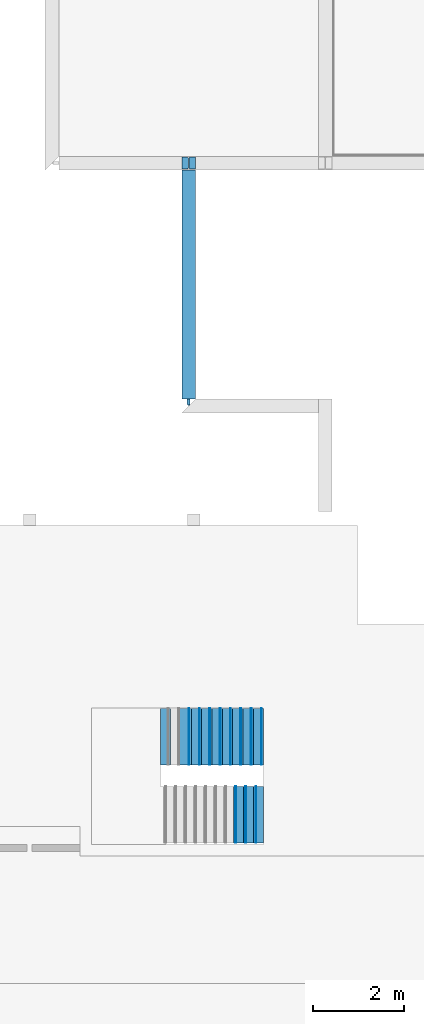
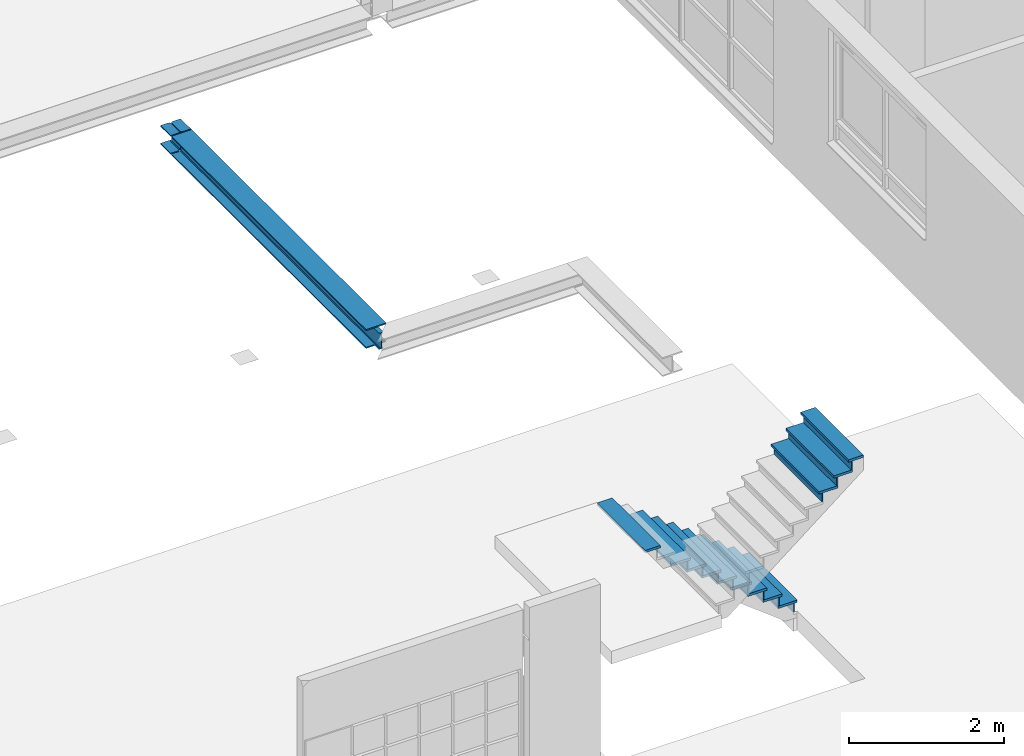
# One storey, part 5 of 22: 23 members, 1 beam, 2 elements without a shape of their own.
"""IFC2X3 building model written with IfcOpenShell, lengths in millimetres."""

from ifc_helpers import new_model, entity, si_unit, converted_unit, derived_unit, money_unit, direction, frame, origin_with_axes, place, context, subcontext, project, spatial, faceted_brep, material, type_object, element, aggregate, save


model = new_model("IFC2X3")

# Units and contexts
model_context = context("Model", 3, precision=0.01, world=origin_with_axes(), true_north=direction((0.0, 1.0)))
body_context = subcontext(model_context, "Body", "Model", "MODEL_VIEW")
ifc_project = project(units=[si_unit("LENGTHUNIT", "METRE", prefix="MILLI"), si_unit("AREAUNIT", "SQUARE_METRE"), si_unit("VOLUMEUNIT", "CUBIC_METRE"), converted_unit("PLANEANGLEUNIT", "DEGREE", entity("IfcPlaneAngleMeasure", 0.0174532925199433), si_unit("PLANEANGLEUNIT", "RADIAN"), dimensions=[0, 0, 0, 0, 0, 0, 0]), money_unit("EUR"), converted_unit("TIMEUNIT", "Year", entity("IfcTimeMeasure", 31557600.0), si_unit("TIMEUNIT", "SECOND"), dimensions=[0, 0, 1, 0, 0, 0, 0]), si_unit("MASSUNIT", "GRAM", prefix="KILO"), si_unit("THERMODYNAMICTEMPERATUREUNIT", "DEGREE_CELSIUS"), si_unit("LUMINOUSINTENSITYUNIT", "LUMEN"), si_unit("ENERGYUNIT", "JOULE", prefix="MEGA"), derived_unit("THERMALCONDUCTANCEUNIT", [(si_unit("POWERUNIT", "WATT"), 1), (si_unit("LENGTHUNIT", "METRE"), -1), (si_unit("THERMODYNAMICTEMPERATUREUNIT", "KELVIN"), -1)]), derived_unit("SPECIFICHEATCAPACITYUNIT", [(si_unit("ENERGYUNIT", "JOULE"), 1), (si_unit("MASSUNIT", "GRAM", prefix="KILO"), -1), (si_unit("THERMODYNAMICTEMPERATUREUNIT", "KELVIN"), -1)]), derived_unit("MASSDENSITYUNIT", [(si_unit("MASSUNIT", "GRAM", prefix="KILO"), 1), (si_unit("VOLUMEUNIT", "CUBIC_METRE"), -1)])], contexts=[model_context])

# Site, building, storey
site_placement = place(None, origin_with_axes())
site = spatial("IfcSite", under=ifc_project, at=site_placement, Name="Site", CompositionType="ELEMENT")
building_placement = place(site_placement, origin_with_axes())
building = spatial("IfcBuilding", under=site, at=building_placement, Name="Naam gebouw", CompositionType="ELEMENT")
storey_placement = place(building_placement, frame((0.0, 0.0, 8690.0), z_axis=(0.0, 0.0, 1.0), x_axis=(1.0, 0.0, 0.0)))
storey = spatial("IfcBuildingStorey", under=building, at=storey_placement, Name="2e verdieping V", CompositionType="ELEMENT", Elevation=8690.0)

# Stair, members
stair_1_placement = place(storey_placement, frame((13740.50051848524, 14274.60803964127, 710.0000000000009), z_axis=(0.0, 0.0, 1.0), x_axis=(-1.0, 0.0, 0.0)))
stair_1 = element("IfcStair", 1, at=stair_1_placement, inside=storey, Name="_Trap-x", ShapeType="NOTDEFINED")
ifc_material_1 = material(Name="Hout - Vloer")
member_type_1 = type_object("IfcMemberType", Name="IfcMember", PredefinedType="USERDEFINED")
member_1_placement = place(stair_1_placement, frame((-1539.999999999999, 620.000000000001, 1400.0), z_axis=(0.0, 0.0, 1.0), x_axis=(0.0, 1.0, 0.0)))
member_1 = element("IfcMember", 2, at=member_1_placement, type_object=member_type_1, material=ifc_material_1, Name="_Traptrede-x", context=body_context, shape_type="Brep", body=[
    faceted_brep([(-620.0, 0.0, -38.0), (620.0, 0.0, -38.0), (620.0, 0.0, 0.0), (-620.0, 0.0, 0.0), (-620.0, 278.0, -38.0), (620.0, 278.0000000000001, -38.0), (620.0, 278.0000000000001, 0.0), (-620.0, 278.0, 0.0)], [[[0, 1, 2, 3]], [[0, 4, 5, 1]], [[1, 5, 6, 2]], [[3, 2, 6, 7]], [[4, 0, 3, 7]], [[5, 4, 7, 6]]]),
])
member_2_placement = place(stair_1_placement, frame((-1760.0, 620.000000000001, 1574.999999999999), z_axis=(0.0, 0.0, 1.0), x_axis=(0.0, 1.0, 0.0)))
member_2 = element("IfcMember", 3, at=member_2_placement, type_object=member_type_1, material=ifc_material_1, Name="_Traptrede-x", context=body_context, shape_type="Brep", body=[
    faceted_brep([(-620.0, 0.0, -38.0), (620.0, 0.0, -38.0), (620.0, 0.0, 0.0), (-620.0, 0.0, 0.0), (-620.0, 278.0, -38.0), (620.0, 278.0000000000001, -38.0), (620.0, 278.0000000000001, 0.0), (-620.0, 278.0, 0.0)], [[[0, 1, 2, 3]], [[0, 4, 5, 1]], [[1, 5, 6, 2]], [[3, 2, 6, 7]], [[4, 0, 3, 7]], [[5, 4, 7, 6]]]),
])
member_3_placement = place(stair_1_placement, frame((-1980.0, 620.000000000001, 1750.0), z_axis=(0.0, 0.0, 1.0), x_axis=(0.0, 1.0, 0.0)))
member_3 = element("IfcMember", 4, at=member_3_placement, type_object=member_type_1, material=ifc_material_1, Name="_Traptrede-x", context=body_context, shape_type="Brep", body=[
    faceted_brep([(-620.0, 0.0, -38.0), (620.0, 0.0, -38.0), (620.0, 0.0, 0.0), (-620.0, 0.0, 0.0), (-620.0, 220.0, -38.0), (620.0, 220.0, -38.0), (620.0, 220.0, 0.0), (-620.0, 220.0, 0.0)], [[[0, 1, 2, 3]], [[0, 4, 5, 1]], [[1, 5, 6, 2]], [[3, 2, 6, 7]], [[4, 0, 3, 7]], [[5, 4, 7, 6]]]),
])

stair_2_placement = place(storey_placement, frame((15940.50051848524, 14745.86936824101, -1039.999999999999), z_axis=(0.0, 0.0, 1.0), x_axis=(1.0, 0.0, 0.0)))
stair_2 = element("IfcStair", 5, at=stair_2_placement, inside=storey, Name="_Trap-x", ShapeType="NOTDEFINED")
member_4_placement = place(stair_2_placement, frame((0.0, 619.9999999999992, 174.9999999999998), z_axis=(0.0, 0.0, 1.0), x_axis=(0.0, 1.0, 0.0)))
member_4 = element("IfcMember", 6, at=member_4_placement, type_object=member_type_1, material=ifc_material_1, Name="_Traptrede-x", context=body_context, shape_type="Brep", body=[
    faceted_brep([(-620.0, 0.0, -38.0), (620.0, 0.0, -38.0), (620.0, 0.0, 0.0), (-620.0, 0.0, 0.0), (-620.0, 285.0000000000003, -38.0), (620.0, 285.000000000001, -38.0), (620.0, 285.000000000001, 0.0), (-620.0, 285.0000000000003, 0.0)], [[[0, 1, 2, 3]], [[0, 4, 5, 1]], [[1, 5, 6, 2]], [[3, 2, 6, 7]], [[4, 0, 3, 7]], [[5, 4, 7, 6]]]),
])
member_5_placement = place(stair_2_placement, frame((-227.0000000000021, 620.000000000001, 349.9999999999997), z_axis=(0.0, 0.0, 1.0), x_axis=(0.0, 1.0, 0.0)))
member_5 = element("IfcMember", 7, at=member_5_placement, type_object=member_type_1, material=ifc_material_1, Name="_Traptrede-x", context=body_context, shape_type="Brep", body=[
    faceted_brep([(-620.0, 0.0, -38.0), (620.0, 0.0, -38.0), (620.0, 0.0, 0.0), (-620.0, 0.0, 0.0), (-620.0, 285.0000000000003, -38.0), (620.0, 285.000000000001, -38.0), (620.0, 285.000000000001, 0.0), (-620.0, 285.0000000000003, 0.0)], [[[0, 1, 2, 3]], [[0, 4, 5, 1]], [[1, 5, 6, 2]], [[3, 2, 6, 7]], [[4, 0, 3, 7]], [[5, 4, 7, 6]]]),
])
member_6_placement = place(stair_2_placement, frame((-454.0000000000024, 620.000000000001, 525.0000000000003), z_axis=(0.0, 0.0, 1.0), x_axis=(0.0, 1.0, 0.0)))
member_6 = element("IfcMember", 8, at=member_6_placement, type_object=member_type_1, material=ifc_material_1, Name="_Traptrede-x", context=body_context, shape_type="Brep", body=[
    faceted_brep([(-620.0, 0.0, -38.0), (620.0, 0.0, -38.0), (620.0, 0.0, 0.0), (-620.0, 0.0, 0.0), (-620.0, 285.0000000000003, -38.0), (620.0, 285.000000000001, -38.0), (620.0, 285.000000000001, 0.0), (-620.0, 285.0000000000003, 0.0)], [[[0, 1, 2, 3]], [[0, 4, 5, 1]], [[1, 5, 6, 2]], [[3, 2, 6, 7]], [[4, 0, 3, 7]], [[5, 4, 7, 6]]]),
])
member_7_placement = place(stair_2_placement, frame((-681.0000000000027, 620.000000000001, 699.9999999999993), z_axis=(0.0, 0.0, 1.0), x_axis=(0.0, 1.0, 0.0)))
member_7 = element("IfcMember", 9, at=member_7_placement, type_object=member_type_1, material=ifc_material_1, Name="_Traptrede-x", context=body_context, shape_type="Brep", body=[
    faceted_brep([(-620.0, 0.0, -38.0), (620.0, 0.0, -38.0), (620.0, 0.0, 0.0), (-620.0, 0.0, 0.0), (-620.0, 285.0000000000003, -38.0), (620.0, 285.000000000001, -38.0), (620.0, 285.000000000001, 0.0), (-620.0, 285.0000000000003, 0.0)], [[[0, 1, 2, 3]], [[0, 4, 5, 1]], [[1, 5, 6, 2]], [[3, 2, 6, 7]], [[4, 0, 3, 7]], [[5, 4, 7, 6]]]),
])
member_8_placement = place(stair_2_placement, frame((-908.0000000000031, 620.000000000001, 875.0), z_axis=(0.0, 0.0, 1.0), x_axis=(0.0, 1.0, 0.0)))
member_8 = element("IfcMember", 10, at=member_8_placement, type_object=member_type_1, material=ifc_material_1, Name="_Traptrede-x", context=body_context, shape_type="Brep", body=[
    faceted_brep([(-620.0, 0.0, -38.0), (620.0, 0.0, -38.0), (620.0, 0.0, 0.0), (-620.0, 0.0, 0.0), (-620.0, 285.0000000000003, -38.0), (620.0, 285.000000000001, -38.0), (620.0, 285.000000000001, 0.0), (-620.0, 285.0000000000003, 0.0)], [[[0, 1, 2, 3]], [[0, 4, 5, 1]], [[1, 5, 6, 2]], [[3, 2, 6, 7]], [[4, 0, 3, 7]], [[5, 4, 7, 6]]]),
])
member_9_placement = place(stair_2_placement, frame((-1135.000000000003, 620.000000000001, 1049.999999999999), z_axis=(0.0, 0.0, 1.0), x_axis=(0.0, 1.0, 0.0)))
member_9 = element("IfcMember", 11, at=member_9_placement, type_object=member_type_1, material=ifc_material_1, Name="_Traptrede-x", context=body_context, shape_type="Brep", body=[
    faceted_brep([(-620.0, 0.0, -38.0), (620.0, 0.0, -38.0), (620.0, 0.0, 0.0), (-620.0, 0.0, 0.0), (-620.0, 285.0000000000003, -38.0), (620.0, 285.000000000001, -38.0), (620.0, 285.000000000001, 0.0), (-620.0, 285.0000000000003, 0.0)], [[[0, 1, 2, 3]], [[0, 4, 5, 1]], [[1, 5, 6, 2]], [[3, 2, 6, 7]], [[4, 0, 3, 7]], [[5, 4, 7, 6]]]),
])
member_10_placement = place(stair_2_placement, frame((-1362.000000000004, 620.000000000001, 1225.0), z_axis=(0.0, 0.0, 1.0), x_axis=(0.0, 1.0, 0.0)))
member_10 = element("IfcMember", 12, at=member_10_placement, type_object=member_type_1, material=ifc_material_1, Name="_Traptrede-x", context=body_context, shape_type="Brep", body=[
    faceted_brep([(-620.0, 0.0, -38.0), (620.0, 0.0, -38.0), (620.0, 0.0, 0.0), (-620.0, 0.0, 0.0), (-620.0, 285.0000000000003, -38.0), (620.0, 285.000000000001, -38.0), (620.0, 285.000000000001, 0.0), (-620.0, 285.0000000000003, 0.0)], [[[0, 1, 2, 3]], [[0, 4, 5, 1]], [[1, 5, 6, 2]], [[3, 2, 6, 7]], [[4, 0, 3, 7]], [[5, 4, 7, 6]]]),
])
member_11_placement = place(stair_2_placement, frame((-1589.000000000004, 620.000000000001, 1400.0), z_axis=(0.0, 0.0, 1.0), x_axis=(0.0, 1.0, 0.0)))
member_11 = element("IfcMember", 13, at=member_11_placement, type_object=member_type_1, material=ifc_material_1, Name="_Traptrede-x", context=body_context, shape_type="Brep", body=[
    faceted_brep([(-620.0, 0.0, -38.0), (620.0, 0.0, -38.0), (620.0, 0.0, 0.0), (-620.0, 0.0, 0.0), (-620.0, 285.0000000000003, -38.0), (620.0, 285.000000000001, -38.0), (620.0, 285.000000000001, 0.0), (-620.0, 285.0000000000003, 0.0)], [[[0, 1, 2, 3]], [[0, 4, 5, 1]], [[1, 5, 6, 2]], [[3, 2, 6, 7]], [[4, 0, 3, 7]], [[5, 4, 7, 6]]]),
])
member_12_placement = place(stair_2_placement, frame((-2043.000000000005, 620.000000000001, 1750.0), z_axis=(0.0, 0.0, 1.0), x_axis=(0.0, 1.0, 0.0)))
member_12 = element("IfcMember", 14, at=member_12_placement, type_object=member_type_1, material=ifc_material_1, Name="_Traptrede-x", context=body_context, shape_type="Brep", body=[
    faceted_brep([(-620.0, 0.0, -38.0), (619.9999999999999, 0.0, -38.0), (619.9999999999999, 0.0, 0.0), (-620.0, 0.0, 0.0), (-620.0000000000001, 227.0000000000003, -38.0), (619.9999999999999, 227.0000000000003, -38.0), (619.9999999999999, 227.0000000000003, 0.0), (-620.0000000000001, 227.0000000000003, 0.0)], [[[0, 1, 2, 3]], [[0, 4, 5, 1]], [[1, 5, 6, 2]], [[3, 2, 6, 7]], [[4, 0, 3, 7]], [[5, 4, 7, 6]]]),
])

# Member
member_type_2 = type_object("IfcMemberType", Name="IfcMember", PredefinedType="USERDEFINED")
member_13_placement = place(stair_1_placement, frame((-1539.999999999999, 620.000000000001, 1362.0), z_axis=(0.0, 0.0, 1.0), x_axis=(0.0, 1.0, 0.0)))
member_13 = element("IfcMember", 15, at=member_13_placement, type_object=member_type_2, material=ifc_material_1, Name="_Stootbord-x", context=body_context, shape_type="Brep", body=[
    faceted_brep([(620.0, 40.00000000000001, 0.0), (620.0, 58.00000000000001, 0.0), (-620.0, 57.99999999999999, 0.0), (-620.0, 40.0, 0.0), (620.0, 40.00000000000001, -137.0), (620.0, 58.00000000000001, -137.0), (-620.0, 58.00000000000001, -137.0), (-620.0, 40.00000000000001, -137.0)], [[[0, 1, 2, 3]], [[0, 4, 5, 1]], [[1, 5, 6, 2]], [[3, 2, 6, 7]], [[4, 0, 3, 7]], [[5, 4, 7, 6]]]),
])

member_14_placement = place(stair_1_placement, frame((-1760.0, 620.000000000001, 1537.000000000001), z_axis=(0.0, 0.0, 1.0), x_axis=(0.0, 1.0, 0.0)))
member_14 = element("IfcMember", 16, at=member_14_placement, type_object=member_type_2, material=ifc_material_1, Name="_Stootbord-x", context=body_context, shape_type="Brep", body=[
    faceted_brep([(620.0, 40.00000000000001, 0.0), (620.0, 58.00000000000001, 0.0), (-620.0, 57.99999999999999, 0.0), (-620.0, 40.0, 0.0), (620.0, 40.00000000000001, -137.0), (620.0, 58.00000000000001, -137.0), (-620.0, 58.00000000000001, -137.0), (-620.0, 40.00000000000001, -137.0)], [[[0, 1, 2, 3]], [[0, 4, 5, 1]], [[1, 5, 6, 2]], [[3, 2, 6, 7]], [[4, 0, 3, 7]], [[5, 4, 7, 6]]]),
])

member_15_placement = place(stair_1_placement, frame((-1980.0, 620.000000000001, 1712.0), z_axis=(0.0, 0.0, 1.0), x_axis=(0.0, 1.0, 0.0)))
member_15 = element("IfcMember", 17, at=member_15_placement, type_object=member_type_2, material=ifc_material_1, Name="_Stootbord-x", context=body_context, shape_type="Brep", body=[
    faceted_brep([(620.0, 40.00000000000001, 0.0), (620.0, 58.00000000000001, 0.0), (-620.0, 57.99999999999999, 0.0), (-620.0, 40.0, 0.0), (620.0, 40.00000000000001, -137.0), (620.0, 58.00000000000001, -137.0), (-620.0, 58.00000000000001, -137.0), (-620.0, 40.00000000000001, -137.0)], [[[0, 1, 2, 3]], [[0, 4, 5, 1]], [[1, 5, 6, 2]], [[3, 2, 6, 7]], [[4, 0, 3, 7]], [[5, 4, 7, 6]]]),
])

aggregate(stair_1, [member_13, member_14, member_15, member_1, member_2, member_3])

member_16_placement = place(stair_2_placement, frame((0.0, 619.9999999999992, 136.9999999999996), z_axis=(0.0, 0.0, 1.0), x_axis=(0.0, 1.0, 0.0)))
member_16 = element("IfcMember", 18, at=member_16_placement, type_object=member_type_2, material=ifc_material_1, Name="_Stootbord-x", context=body_context, shape_type="Brep", body=[
    faceted_brep([(620.0, 40.00000000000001, 0.0), (620.0, 58.00000000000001, 0.0), (-620.0, 57.99999999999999, 0.0), (-620.0, 40.0, 0.0), (620.0, 40.00000000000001, -137.0), (620.0, 58.00000000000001, -137.0), (-620.0, 58.00000000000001, -137.0), (-620.0, 40.00000000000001, -137.0)], [[[0, 1, 2, 3]], [[0, 4, 5, 1]], [[1, 5, 6, 2]], [[3, 2, 6, 7]], [[4, 0, 3, 7]], [[5, 4, 7, 6]]]),
])

member_17_placement = place(stair_2_placement, frame((-227.0000000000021, 620.000000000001, 312.0000000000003), z_axis=(0.0, 0.0, 1.0), x_axis=(0.0, 1.0, 0.0)))
member_17 = element("IfcMember", 19, at=member_17_placement, type_object=member_type_2, material=ifc_material_1, Name="_Stootbord-x", context=body_context, shape_type="Brep", body=[
    faceted_brep([(620.0, 40.00000000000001, 0.0), (620.0, 58.00000000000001, 0.0), (-620.0, 57.99999999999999, 0.0), (-620.0, 40.0, 0.0), (620.0, 40.00000000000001, -137.0), (620.0, 58.00000000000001, -137.0), (-620.0, 58.00000000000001, -137.0), (-620.0, 40.00000000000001, -137.0)], [[[0, 1, 2, 3]], [[0, 4, 5, 1]], [[1, 5, 6, 2]], [[3, 2, 6, 7]], [[4, 0, 3, 7]], [[5, 4, 7, 6]]]),
])

member_18_placement = place(stair_2_placement, frame((-454.0000000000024, 620.000000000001, 487.0000000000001), z_axis=(0.0, 0.0, 1.0), x_axis=(0.0, 1.0, 0.0)))
member_18 = element("IfcMember", 20, at=member_18_placement, type_object=member_type_2, material=ifc_material_1, Name="_Stootbord-x", context=body_context, shape_type="Brep", body=[
    faceted_brep([(620.0, 40.00000000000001, 0.0), (620.0, 58.00000000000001, 0.0), (-620.0, 57.99999999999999, 0.0), (-620.0, 40.0, 0.0), (620.0, 40.00000000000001, -137.0), (620.0, 58.00000000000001, -137.0), (-620.0, 58.00000000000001, -137.0), (-620.0, 40.00000000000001, -137.0)], [[[0, 1, 2, 3]], [[0, 4, 5, 1]], [[1, 5, 6, 2]], [[3, 2, 6, 7]], [[4, 0, 3, 7]], [[5, 4, 7, 6]]]),
])

member_19_placement = place(stair_2_placement, frame((-681.0000000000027, 620.000000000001, 662.0000000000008), z_axis=(0.0, 0.0, 1.0), x_axis=(0.0, 1.0, 0.0)))
member_19 = element("IfcMember", 21, at=member_19_placement, type_object=member_type_2, material=ifc_material_1, Name="_Stootbord-x", context=body_context, shape_type="Brep", body=[
    faceted_brep([(620.0, 40.00000000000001, 0.0), (620.0, 58.00000000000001, 0.0), (-620.0, 57.99999999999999, 0.0), (-620.0, 40.0, 0.0), (620.0, 40.00000000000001, -137.0), (620.0, 58.00000000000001, -137.0), (-620.0, 58.00000000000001, -137.0), (-620.0, 40.00000000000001, -137.0)], [[[0, 1, 2, 3]], [[0, 4, 5, 1]], [[1, 5, 6, 2]], [[3, 2, 6, 7]], [[4, 0, 3, 7]], [[5, 4, 7, 6]]]),
])

member_20_placement = place(stair_2_placement, frame((-1135.000000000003, 620.000000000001, 1012.0), z_axis=(0.0, 0.0, 1.0), x_axis=(0.0, 1.0, 0.0)))
member_20 = element("IfcMember", 22, at=member_20_placement, type_object=member_type_2, material=ifc_material_1, Name="_Stootbord-x", context=body_context, shape_type="Brep", body=[
    faceted_brep([(620.0, 40.00000000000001, 0.0), (620.0, 58.00000000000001, 0.0), (-620.0, 57.99999999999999, 0.0), (-620.0, 40.0, 0.0), (620.0, 40.00000000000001, -137.0), (620.0, 58.00000000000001, -137.0), (-620.0, 58.00000000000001, -137.0), (-620.0, 40.00000000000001, -137.0)], [[[0, 1, 2, 3]], [[0, 4, 5, 1]], [[1, 5, 6, 2]], [[3, 2, 6, 7]], [[4, 0, 3, 7]], [[5, 4, 7, 6]]]),
])

member_21_placement = place(stair_2_placement, frame((-1362.000000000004, 620.000000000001, 1186.999999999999), z_axis=(0.0, 0.0, 1.0), x_axis=(0.0, 1.0, 0.0)))
member_21 = element("IfcMember", 23, at=member_21_placement, type_object=member_type_2, material=ifc_material_1, Name="_Stootbord-x", context=body_context, shape_type="Brep", body=[
    faceted_brep([(620.0, 40.00000000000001, 0.0), (620.0, 58.00000000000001, 0.0), (-620.0, 57.99999999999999, 0.0), (-620.0, 40.0, 0.0), (620.0, 40.00000000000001, -137.0), (620.0, 58.00000000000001, -137.0), (-620.0, 58.00000000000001, -137.0), (-620.0, 40.00000000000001, -137.0)], [[[0, 1, 2, 3]], [[0, 4, 5, 1]], [[1, 5, 6, 2]], [[3, 2, 6, 7]], [[4, 0, 3, 7]], [[5, 4, 7, 6]]]),
])

member_22_placement = place(stair_2_placement, frame((-1589.000000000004, 620.000000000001, 1362.0), z_axis=(0.0, 0.0, 1.0), x_axis=(0.0, 1.0, 0.0)))
member_22 = element("IfcMember", 24, at=member_22_placement, type_object=member_type_2, material=ifc_material_1, Name="_Stootbord-x", context=body_context, shape_type="Brep", body=[
    faceted_brep([(620.0, 40.00000000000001, 0.0), (620.0, 58.00000000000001, 0.0), (-620.0, 57.99999999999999, 0.0), (-620.0, 40.0, 0.0), (620.0, 40.00000000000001, -137.0), (620.0, 58.00000000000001, -137.0), (-620.0, 58.00000000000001, -137.0), (-620.0, 40.00000000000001, -137.0)], [[[0, 1, 2, 3]], [[0, 4, 5, 1]], [[1, 5, 6, 2]], [[3, 2, 6, 7]], [[4, 0, 3, 7]], [[5, 4, 7, 6]]]),
])

member_23_placement = place(stair_2_placement, frame((-908.0000000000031, 620.000000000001, 836.9999999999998), z_axis=(0.0, 0.0, 1.0), x_axis=(0.0, 1.0, 0.0)))
member_23 = element("IfcMember", 25, at=member_23_placement, type_object=member_type_2, material=ifc_material_1, Name="_Stootbord-x", context=body_context, shape_type="Brep", body=[
    faceted_brep([(620.0, 40.00000000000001, 0.0), (620.0, 58.00000000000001, 0.0), (-620.0, 57.99999999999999, 0.0), (-620.0, 40.0, 0.0), (620.0, 40.00000000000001, -137.0), (620.0, 58.00000000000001, -137.0), (-620.0, 58.00000000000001, -137.0), (-620.0, 40.00000000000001, -137.0)], [[[0, 1, 2, 3]], [[0, 4, 5, 1]], [[1, 5, 6, 2]], [[3, 2, 6, 7]], [[4, 0, 3, 7]], [[5, 4, 7, 6]]]),
])

aggregate(stair_2, [member_16, member_17, member_18, member_19, member_20, member_21, member_22, member_4, member_5, member_6, member_7, member_8, member_9, member_10, member_11, member_12, member_23])

# Beam
ifc_material_2 = material(Name="staal geanodiseerd RAL 7024")
beam_type = type_object("IfcBeamType", Name="NLRS_28_SF_LIB_balk HE_generiek_ISR:balk HE_gen_HEB300", PredefinedType="BEAM")
beam_placement = place(storey_placement, frame((14294.63052973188, 28086.91242628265, -990.0000000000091), z_axis=(0.0, 0.0, 1.0), x_axis=(-1.0, 0.0, 0.0)))
element("IfcBeam", 26, at=beam_placement, inside=storey, type_object=beam_type, material=ifc_material_2, Name="NLRS_28_SF_LIB_balk HE_generiek_ISR:balk HE_gen_HEB300", ObjectType="BEAM", context=body_context, shape_type="Brep", body=[
    faceted_brep([(19.00000000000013, 254.7521561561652, -127.3826859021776), (12.74784383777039, 248.4999999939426, -121.130529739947), (9.130529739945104, 234.9999999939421, -117.5132156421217), (9.130529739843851, 26.99999999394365, -117.5132156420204), (12.7478438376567, 13.49999999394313, -121.1305297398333), (19.00000000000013, 7.247843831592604, -127.3826859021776), (12.74784383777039, 248.4999999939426, -149.9999999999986), (22.63052973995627, 258.382685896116, -128.3554834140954), (22.63052973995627, 258.382685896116, -149.9999999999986), (9.130529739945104, 234.9999999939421, -149.9999999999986), (9.130529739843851, 26.99999999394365, -149.9999999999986), (12.7478438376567, 13.49999999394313, -149.9999999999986), (22.63052973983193, 3.617314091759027, -128.3554834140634), (22.63052973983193, 3.617314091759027, -149.9999999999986), (32.50000000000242, 261.0272024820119, -130.9999999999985), (32.50000000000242, 0.9727975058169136, -130.9999999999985), (36.13052973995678, 261.9999999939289, -130.9999999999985), (36.13052973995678, 261.9999999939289, -149.9999999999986), (150.0000000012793, 261.9999999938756, -149.9999999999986), (150.0000000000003, 0.0, -149.9999999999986), (36.13052973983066, -6.068034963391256e-09, -149.9999999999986), (36.13052973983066, -6.068034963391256e-09, -130.9999999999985), (150.0000000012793, 261.9999999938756, -130.9999999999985), (150.0000000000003, 0.0, -130.9999999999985)], [[[0, 1, 2, 3, 4, 5]], [[6, 1, 0, 7, 8]], [[9, 2, 1, 6]], [[10, 3, 2, 9]], [[11, 4, 3, 10]], [[12, 5, 4, 11, 13]], [[14, 7, 0, 5, 12, 15]], [[8, 7, 14, 16, 17]], [[8, 17, 18, 19, 20, 13, 11, 10, 9, 6]], [[21, 15, 12, 13, 20]], [[22, 16, 14, 15, 21, 23]], [[17, 16, 22, 18]], [[19, 18, 22, 23]], [[23, 21, 20, 19]]]),
    faceted_brep([(22.63052973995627, 258.382685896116, 150.000000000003), (12.74784383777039, 248.4999999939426, 150.000000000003), (9.130529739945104, 234.9999999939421, 150.000000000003), (9.130529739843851, 26.99999999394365, 150.000000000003), (12.7478438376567, 13.49999999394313, 150.000000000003), (22.63052973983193, 3.617314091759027, 150.000000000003), (36.13052973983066, -6.068034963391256e-09, 150.000000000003), (150.0000000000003, 0.0, 150.000000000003), (150.0000000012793, 261.9999999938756, 150.000000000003), (36.13052973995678, 261.9999999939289, 150.000000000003), (12.74784383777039, 248.4999999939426, 121.1305297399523), (22.63052973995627, 258.382685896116, 128.3554834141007), (19.00000000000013, 254.7521561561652, 127.382685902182), (9.130529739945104, 234.9999999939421, 117.513215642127), (9.130529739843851, 26.99999999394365, 117.5132156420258), (12.7478438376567, 13.49999999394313, 121.1305297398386), (22.63052973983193, 3.617314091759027, 128.3554834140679), (19.00000000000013, 7.247843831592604, 127.382685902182), (36.13052973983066, -6.068034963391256e-09, 131.0000000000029), (32.50000000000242, 0.9727975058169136, 131.0000000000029), (150.0000000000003, 0.0, 131.0000000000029), (150.0000000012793, 261.9999999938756, 131.0000000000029), (36.13052973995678, 261.9999999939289, 131.0000000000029), (32.50000000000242, 261.0272024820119, 131.0000000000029)], [[[0, 1, 2, 3, 4, 5, 6, 7, 8, 9]], [[10, 1, 0, 11, 12]], [[13, 2, 1, 10]], [[14, 3, 2, 13]], [[15, 4, 3, 14]], [[16, 5, 4, 15, 17]], [[18, 6, 5, 16, 19]], [[7, 6, 18, 20]], [[20, 21, 8, 7]], [[22, 9, 8, 21]], [[11, 0, 9, 22, 23]], [[12, 11, 23, 19, 16, 17]], [[13, 10, 12, 17, 15, 14]], [[23, 22, 21, 20, 18, 19]]]),
    faceted_brep([(-32.50000000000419, 5310.999999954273, 131.0000000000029), (-32.50000000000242, 280.9999999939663, 131.0000000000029), (-146.3694702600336, 280.9999999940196, 131.0000000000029), (-146.3694702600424, 261.9999999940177, 131.0000000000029), (-32.50000000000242, 261.9999999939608, 131.0000000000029), (-32.50000000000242, 0.0, 131.0000000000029), (-150.0000000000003, 0.0, 131.0000000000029), (-150.0000000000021, 5310.999999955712, 131.0000000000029), (-19.0000000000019, 5441.999999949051, 127.382685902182), (-19.0000000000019, 280.9999999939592, 127.382685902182), (-32.50000000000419, 5428.499999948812, 131.0000000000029), (150.0000000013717, 280.9999999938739, 131.0000000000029), (150.0000000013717, 280.9999999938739, 150.000000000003), (-146.3694702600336, 280.9999999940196, 150.000000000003), (-9.11731409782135, 280.9999999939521, 117.5000000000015), (-5.499999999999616, 280.9999999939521, 104.0000000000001), (-5.499999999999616, 280.9999999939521, -103.9999999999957), (-9.11731409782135, 280.9999999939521, -117.499999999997), (-19.0000000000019, 280.9999999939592, -127.3826859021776), (-32.50000000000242, 280.9999999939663, -130.9999999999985), (-146.3694702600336, 280.9999999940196, -130.9999999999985), (-146.3694702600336, 280.9999999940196, -149.9999999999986), (150.0000000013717, 280.9999999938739, -149.9999999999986), (150.0000000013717, 280.9999999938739, -130.9999999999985), (32.50000000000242, 280.9999999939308, -130.9999999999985), (19.00000000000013, 280.9999999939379, -127.3826859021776), (9.117314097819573, 280.999999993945, -117.499999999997), (5.499999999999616, 280.999999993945, -103.9999999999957), (5.499999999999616, 280.999999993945, 104.0000000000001), (9.117314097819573, 280.999999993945, 117.5000000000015), (19.00000000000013, 280.9999999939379, 127.382685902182), (32.50000000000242, 280.9999999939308, 131.0000000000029), (-146.3694702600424, 261.9999999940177, 150.000000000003), (-28.86947026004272, 261.9999999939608, 150.000000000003), (-28.86947026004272, 261.9999999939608, 130.0272024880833), (-19.0000000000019, 259.3554834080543, 127.382685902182), (-19.0000000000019, 2.644516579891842, 127.382685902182), (-28.86947026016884, -6.039613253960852e-09, 130.027202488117), (-28.86947026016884, -6.039613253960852e-09, 150.000000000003), (-150.0000000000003, 0.0, 150.000000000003), (-150.0000000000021, 5310.999999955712, 150.000000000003), (32.50000000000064, 5310.999999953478, 131.0000000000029), (150.0000000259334, 5310.999999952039, 150.000000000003), (150.0000000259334, 5310.999999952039, 131.0000000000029), (-9.11731409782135, 5451.882685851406, 117.5000000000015), (32.50000000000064, 5428.49999994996, 131.0000000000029), (19.00000000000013, 5441.999999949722, 127.382685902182), (-5.486784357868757, 248.4999999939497, 150.000000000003), (-15.36947026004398, 258.3826858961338, 150.000000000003), (-15.36947026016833, 3.617314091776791, 150.000000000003), (-5.486784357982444, 13.49999999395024, 150.000000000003), (-1.869470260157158, 26.99999999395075, 150.000000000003), (-1.869470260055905, 234.9999999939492, 150.000000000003), (-5.500000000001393, 5455.499999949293, 104.0000000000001), (-5.500000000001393, 5455.499999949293, -103.9999999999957), (-9.11731409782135, 5451.882685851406, -117.499999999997), (-19.0000000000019, 5441.999999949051, -127.3826859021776), (-32.50000000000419, 5310.999999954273, -130.9999999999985), (-32.50000000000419, 5428.499999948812, -130.9999999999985), (-146.3694702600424, 261.9999999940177, -130.9999999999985), (-150.0000000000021, 5310.999999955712, -130.9999999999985), (-150.0000000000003, 0.0, -130.9999999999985), (-32.50000000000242, 0.0, -130.9999999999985), (-32.50000000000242, 261.9999999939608, -130.9999999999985), (-146.3694702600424, 261.9999999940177, -149.9999999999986), (-5.486784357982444, 13.49999999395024, -149.9999999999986), (-15.36947026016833, 3.617314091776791, -149.9999999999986), (-28.86947026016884, -6.039613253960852e-09, -149.9999999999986), (-150.0000000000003, 0.0, -149.9999999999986), (-150.0000000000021, 5310.999999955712, -149.9999999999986), (150.0000000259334, 5310.999999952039, -149.9999999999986), (-28.86947026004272, 261.9999999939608, -149.9999999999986), (-15.36947026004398, 258.3826858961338, -149.9999999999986), (-5.486784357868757, 248.4999999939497, -149.9999999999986), (-1.869470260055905, 234.9999999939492, -149.9999999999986), (-1.869470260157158, 26.99999999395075, -149.9999999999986), (150.0000000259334, 5310.999999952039, -130.9999999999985), (32.50000000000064, 5310.999999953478, -130.9999999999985), (19.00000000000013, 5441.999999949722, -127.3826859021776), (32.50000000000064, 5428.49999994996, -130.9999999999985), (9.117314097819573, 5451.882685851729, -117.499999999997), (5.49999999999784, 5455.499999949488, -103.9999999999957), (5.49999999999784, 5455.499999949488, 104.0000000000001), (9.117314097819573, 5451.882685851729, 117.5000000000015), (-15.36947026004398, 258.3826858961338, 123.7521561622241), (-9.11731409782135, 9.869470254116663, 117.5000000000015), (-15.36947026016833, 3.617314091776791, 123.7521561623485), (-9.11731409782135, 252.130529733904, 117.5000000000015), (-15.36947026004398, 258.3826858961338, -123.7521561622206), (-9.11731409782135, 252.130529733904, -117.499999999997), (-5.499999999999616, 248.5132156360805, -103.9999999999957), (-5.499999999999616, 248.5132156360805, 104.0000000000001), (-5.499999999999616, 13.48678435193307, 104.0000000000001), (-5.499999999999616, 13.48678435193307, -103.9999999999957), (-9.11731409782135, 9.869470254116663, -117.499999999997), (-15.36947026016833, 3.617314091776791, -123.7521561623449), (-28.86947026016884, -6.039613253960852e-09, -130.0272024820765), (-19.0000000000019, 2.644516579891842, -127.3826859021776), (-19.0000000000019, 259.3554834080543, -127.3826859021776), (-28.86947026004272, 261.9999999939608, -130.0272024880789)], [[[0, 1, 2, 3, 4, 5, 6, 7]], [[8, 9, 1, 0, 10]], [[11, 12, 13, 2, 1, 9, 14, 15, 16, 17, 18, 19, 20, 21, 22, 23, 24, 25, 26, 27, 28, 29, 30, 31]], [[2, 13, 32, 3]], [[3, 32, 33, 34, 4]], [[35, 36, 37, 5, 4, 34]], [[5, 37, 38, 39, 6]], [[6, 39, 40, 7]], [[41, 0, 7, 40, 42, 43]], [[44, 14, 9, 8]], [[41, 45, 10, 0]], [[45, 46, 8, 10]], [[42, 12, 11, 43]], [[47, 48, 33, 32, 13, 12, 42, 40, 39, 38, 49, 50, 51, 52]], [[53, 15, 14, 44]], [[54, 16, 15, 53]], [[55, 17, 16, 54]], [[56, 18, 17, 55]], [[57, 19, 18, 56, 58]], [[59, 20, 19, 57, 60, 61, 62, 63]], [[21, 20, 59, 64]], [[65, 66, 67, 68, 69, 70, 22, 21, 64, 71, 72, 73, 74, 75]], [[76, 23, 22, 70]], [[77, 24, 23, 76]], [[78, 25, 24, 77, 79]], [[80, 26, 25, 78]], [[81, 27, 26, 80]], [[82, 28, 27, 81]], [[83, 29, 28, 82]], [[46, 30, 29, 83]], [[41, 31, 30, 46, 45]], [[43, 11, 31, 41]], [[34, 33, 48, 84, 35]], [[85, 86, 36, 35, 84, 87]], [[86, 49, 38, 37, 36]], [[46, 83, 44, 8]], [[84, 48, 47, 73, 72, 88, 89, 90, 91, 87]], [[65, 50, 49, 86, 85, 92, 93, 94, 95, 66]], [[75, 51, 50, 65]], [[74, 52, 51, 75]], [[73, 47, 52, 74]], [[83, 82, 53, 44]], [[82, 81, 54, 53]], [[81, 80, 55, 54]], [[80, 78, 56, 55]], [[78, 79, 58, 56]], [[79, 77, 57, 58]], [[76, 70, 69, 60, 57, 77]], [[68, 61, 60, 69]], [[68, 67, 96, 62, 61]], [[62, 96, 97, 98, 99, 63]], [[64, 59, 63, 99, 71]], [[95, 97, 96, 67, 66]], [[71, 99, 98, 88, 72]], [[91, 92, 85, 87]], [[97, 95, 94, 89, 88, 98]], [[89, 94, 93, 90]], [[90, 93, 92, 91]]]),
])

save(model, "model.ifc")
